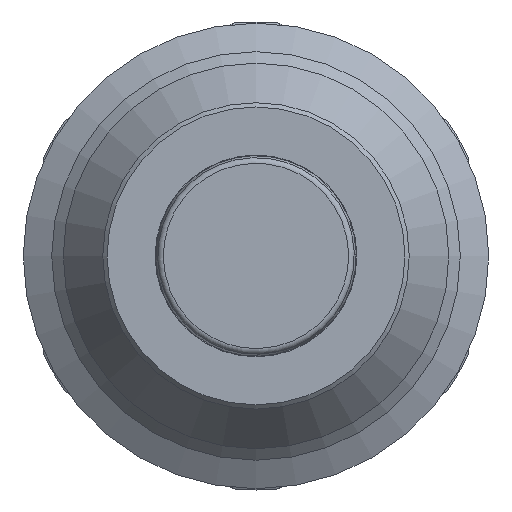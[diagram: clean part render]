
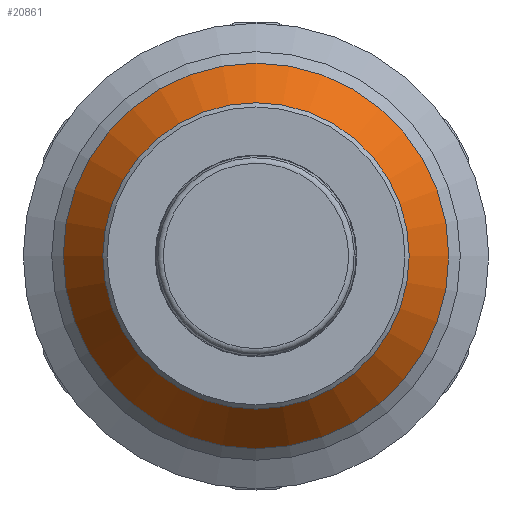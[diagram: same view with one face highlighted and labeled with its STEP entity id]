
A CAD part, front view. The second image highlights one B-rep face of the part: STEP entity #20861.
In plain terms, the highlighted conical face has half-angle 36.001 degrees and reference radius 20.325 mm.
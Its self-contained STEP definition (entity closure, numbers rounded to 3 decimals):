
#807=CONICAL_SURFACE('',#22033,20.325,0.628);
#1171=FACE_OUTER_BOUND('',#2301,.T.);
#2301=EDGE_LOOP('',(#13275,#13276,#13277,#13278));
#4996=CIRCLE('',#22032,22.65);
#4997=CIRCLE('',#22034,18.);
#5377=LINE('',#25880,#6629);
#6629=VECTOR('',#22910,20.325);
#7910=VERTEX_POINT('',#25875);
#7911=VERTEX_POINT('',#25879);
#10051=EDGE_CURVE('',#7910,#7910,#4996,.T.);
#10052=EDGE_CURVE('',#7910,#7911,#5377,.T.);
#10053=EDGE_CURVE('',#7911,#7911,#4997,.T.);
#13275=ORIENTED_EDGE('',*,*,#10051,.F.);
#13276=ORIENTED_EDGE('',*,*,#10052,.T.);
#13277=ORIENTED_EDGE('',*,*,#10053,.T.);
#13278=ORIENTED_EDGE('',*,*,#10052,.F.);
#20861=ADVANCED_FACE('',(#1171),#807,.T.);
#22032=AXIS2_PLACEMENT_3D('',#25877,#22906,#22907);
#22033=AXIS2_PLACEMENT_3D('',#25878,#22908,#22909);
#22034=AXIS2_PLACEMENT_3D('',#25881,#22911,#22912);
#22906=DIRECTION('center_axis',(0.,1.,0.));
#22907=DIRECTION('ref_axis',(1.,0.,0.));
#22908=DIRECTION('center_axis',(0.,1.,0.));
#22909=DIRECTION('ref_axis',(-1.,0.,0.));
#22910=DIRECTION('',(-0.588,-0.809,0.));
#22911=DIRECTION('center_axis',(0.,1.,0.));
#22912=DIRECTION('ref_axis',(1.,0.,0.));
#25875=CARTESIAN_POINT('',(22.65,-4.85,0.));
#25877=CARTESIAN_POINT('Origin',(0.,-4.85,0.));
#25878=CARTESIAN_POINT('Origin',(0.,-8.05,0.));
#25879=CARTESIAN_POINT('',(18.,-11.25,0.));
#25880=CARTESIAN_POINT('',(20.325,-8.05,0.));
#25881=CARTESIAN_POINT('Origin',(0.,-11.25,0.));
